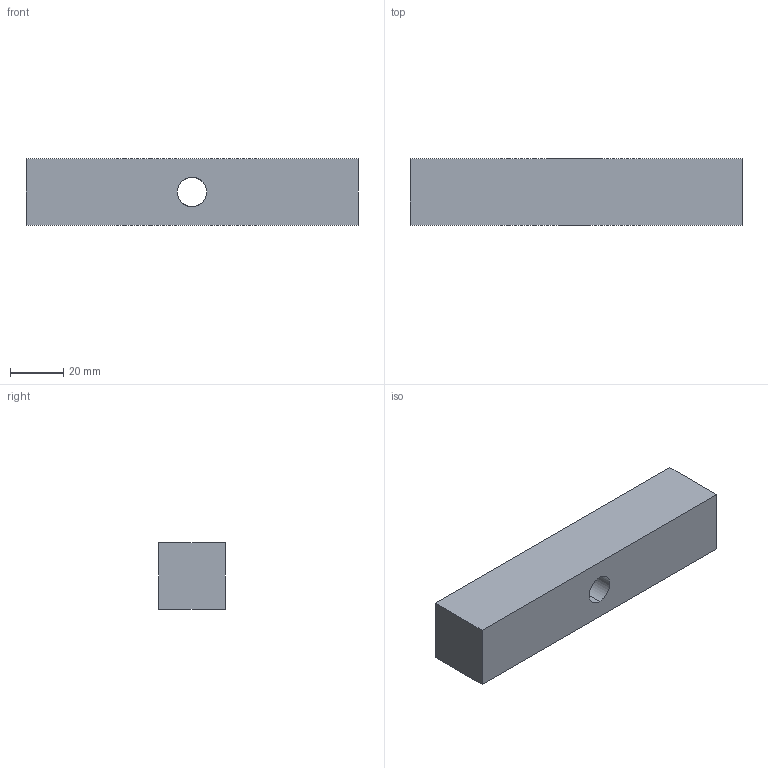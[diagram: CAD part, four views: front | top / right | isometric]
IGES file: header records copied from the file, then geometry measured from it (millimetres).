
Start section: START RECORD GO HERE.
Global section: file name: 760-2525125.igs; native system: DASSAULT SYSTEMES CATIA V5 R20 - www.3ds.com; preprocessor: CATIA Version 5 Release 20 ; author: Utente; organization: NB04-ASUS; date: 20200411.172559; units: millimetre
Bounding box: 125 x 25 x 25 mm (x, y, z)
Surface area: 14763.2 mm2 (no closed solid volume)
Topology: 0 solids, 0 shells, 11 faces, 48 edges, 48 vertices
Faces by surface type: extrusion 7, revolution 4
